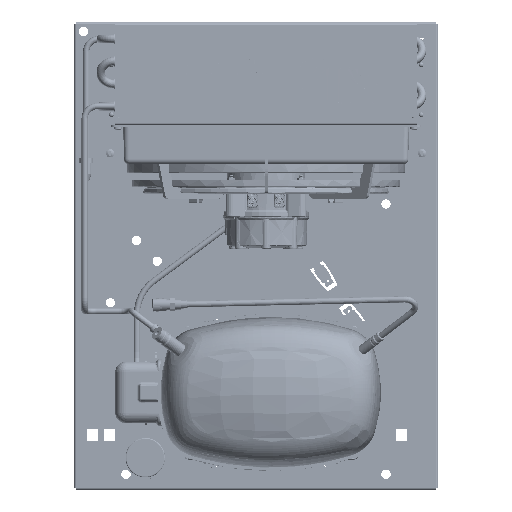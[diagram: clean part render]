
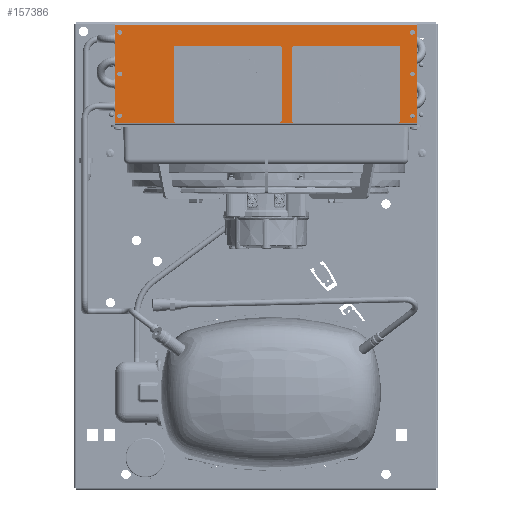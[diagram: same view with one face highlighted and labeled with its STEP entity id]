
A CAD part, top view. The second image highlights one B-rep face of the part: STEP entity #157386.
In plain terms, the highlighted planar face has unit normal (0, 0, 1).
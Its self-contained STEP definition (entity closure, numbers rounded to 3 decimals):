
#13146=LINE('',#352882,#24903);
#13147=LINE('',#352885,#24904);
#13148=LINE('',#352887,#24905);
#13149=LINE('',#352889,#24906);
#24903=VECTOR('',#210086,1000.);
#24904=VECTOR('',#210087,1000.);
#24905=VECTOR('',#210088,1000.);
#24906=VECTOR('',#210089,1000.);
#35020=PLANE('',#190944);
#50550=ORIENTED_EDGE('',*,*,#91718,.T.);
#50551=ORIENTED_EDGE('',*,*,#91719,.F.);
#50552=ORIENTED_EDGE('',*,*,#91720,.F.);
#50553=ORIENTED_EDGE('',*,*,#91721,.T.);
#50554=ORIENTED_EDGE('',*,*,#91717,.F.);
#50555=ORIENTED_EDGE('',*,*,#91715,.F.);
#50556=ORIENTED_EDGE('',*,*,#91713,.F.);
#50557=ORIENTED_EDGE('',*,*,#91711,.F.);
#50558=ORIENTED_EDGE('',*,*,#91709,.F.);
#50559=ORIENTED_EDGE('',*,*,#91707,.F.);
#91707=EDGE_CURVE('',#113330,#113330,#126773,.T.);
#91709=EDGE_CURVE('',#113332,#113332,#126775,.T.);
#91711=EDGE_CURVE('',#113334,#113334,#126777,.T.);
#91713=EDGE_CURVE('',#113336,#113336,#126779,.T.);
#91715=EDGE_CURVE('',#113338,#113338,#126781,.T.);
#91717=EDGE_CURVE('',#113340,#113340,#126783,.T.);
#91718=EDGE_CURVE('',#113341,#113342,#13146,.T.);
#91719=EDGE_CURVE('',#113343,#113342,#13147,.T.);
#91720=EDGE_CURVE('',#113344,#113343,#13148,.T.);
#91721=EDGE_CURVE('',#113344,#113341,#13149,.T.);
#113330=VERTEX_POINT('',#352855);
#113332=VERTEX_POINT('',#352860);
#113334=VERTEX_POINT('',#352865);
#113336=VERTEX_POINT('',#352870);
#113338=VERTEX_POINT('',#352875);
#113340=VERTEX_POINT('',#352880);
#113341=VERTEX_POINT('',#352883);
#113342=VERTEX_POINT('',#352884);
#113343=VERTEX_POINT('',#352886);
#113344=VERTEX_POINT('',#352888);
#126773=CIRCLE('',#190928,2.25);
#126775=CIRCLE('',#190931,2.25);
#126777=CIRCLE('',#190934,2.25);
#126779=CIRCLE('',#190937,2.25);
#126781=CIRCLE('',#190940,2.25);
#126783=CIRCLE('',#190943,2.25);
#133518=EDGE_LOOP('',(#50550,#50551,#50552,#50553));
#133519=EDGE_LOOP('',(#50554));
#133520=EDGE_LOOP('',(#50555));
#133521=EDGE_LOOP('',(#50556));
#133522=EDGE_LOOP('',(#50557));
#133523=EDGE_LOOP('',(#50558));
#133524=EDGE_LOOP('',(#50559));
#145218=FACE_BOUND('',#133518,.T.);
#145219=FACE_BOUND('',#133519,.T.);
#145220=FACE_BOUND('',#133520,.T.);
#145221=FACE_BOUND('',#133521,.T.);
#145222=FACE_BOUND('',#133522,.T.);
#145223=FACE_BOUND('',#133523,.T.);
#145224=FACE_BOUND('',#133524,.T.);
#157386=ADVANCED_FACE('',(#145218,#145219,#145220,#145221,#145222,#145223,
#145224),#35020,.F.);
#190928=AXIS2_PLACEMENT_3D('',#352854,#210052,#210053);
#190931=AXIS2_PLACEMENT_3D('',#352859,#210058,#210059);
#190934=AXIS2_PLACEMENT_3D('',#352864,#210064,#210065);
#190937=AXIS2_PLACEMENT_3D('',#352869,#210070,#210071);
#190940=AXIS2_PLACEMENT_3D('',#352874,#210076,#210077);
#190943=AXIS2_PLACEMENT_3D('',#352879,#210082,#210083);
#190944=AXIS2_PLACEMENT_3D('',#352881,#210084,#210085);
#210052=DIRECTION('',(0.,0.,1.));
#210053=DIRECTION('',(1.,0.,0.));
#210058=DIRECTION('',(0.,0.,1.));
#210059=DIRECTION('',(1.,0.,0.));
#210064=DIRECTION('',(0.,0.,1.));
#210065=DIRECTION('',(1.,0.,0.));
#210070=DIRECTION('',(0.,0.,1.));
#210071=DIRECTION('',(1.,0.,0.));
#210076=DIRECTION('',(0.,0.,1.));
#210077=DIRECTION('',(1.,0.,0.));
#210082=DIRECTION('',(0.,0.,1.));
#210083=DIRECTION('',(1.,0.,0.));
#210084=DIRECTION('',(0.,0.,-1.));
#210085=DIRECTION('',(-1.,0.,0.));
#210086=DIRECTION('',(0.,1.,0.));
#210087=DIRECTION('',(1.,0.,0.));
#210088=DIRECTION('',(0.,1.,0.));
#210089=DIRECTION('',(1.,0.,0.));
#352854=CARTESIAN_POINT('',(140.75,0.15,0.));
#352855=CARTESIAN_POINT('',(143.,0.15,0.));
#352859=CARTESIAN_POINT('',(-140.75,0.15,0.));
#352860=CARTESIAN_POINT('',(-138.5,0.15,0.));
#352864=CARTESIAN_POINT('',(-140.75,40.15,0.));
#352865=CARTESIAN_POINT('',(-138.5,40.15,0.));
#352869=CARTESIAN_POINT('',(140.75,-40.15,0.));
#352870=CARTESIAN_POINT('',(143.,-40.15,0.));
#352874=CARTESIAN_POINT('',(140.75,40.15,0.));
#352875=CARTESIAN_POINT('',(143.,40.15,0.));
#352879=CARTESIAN_POINT('',(-140.75,-40.15,0.));
#352880=CARTESIAN_POINT('',(-138.5,-40.15,0.));
#352881=CARTESIAN_POINT('',(-145.,-48.65,0.));
#352882=CARTESIAN_POINT('',(145.,-48.65,0.));
#352883=CARTESIAN_POINT('',(145.,-46.85,0.));
#352884=CARTESIAN_POINT('',(145.,46.85,0.));
#352885=CARTESIAN_POINT('',(-145.,46.85,0.));
#352886=CARTESIAN_POINT('',(-145.,46.85,0.));
#352887=CARTESIAN_POINT('',(-145.,-48.65,0.));
#352888=CARTESIAN_POINT('',(-145.,-46.85,0.));
#352889=CARTESIAN_POINT('',(-145.,-46.85,0.));
